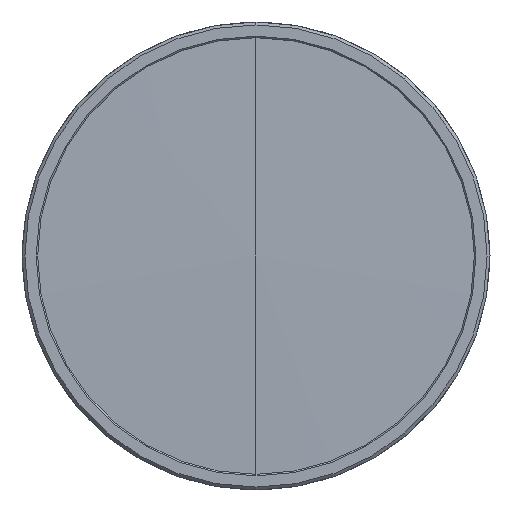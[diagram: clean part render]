
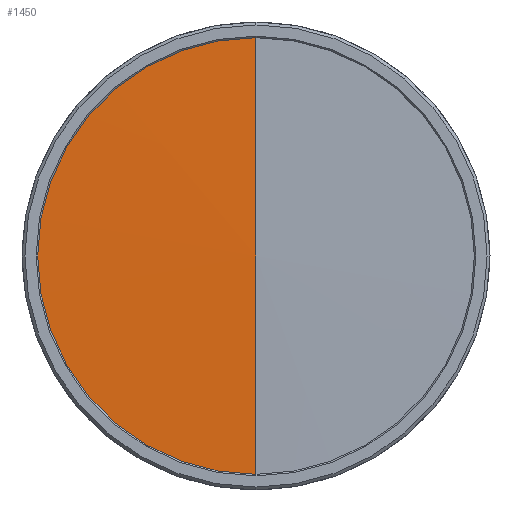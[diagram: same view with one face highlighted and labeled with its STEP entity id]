
A CAD part, left-side view. The second image highlights one B-rep face of the part: STEP entity #1450.
In plain terms, the highlighted conical face has half-angle 89.254 degrees and reference radius 76.792 mm.
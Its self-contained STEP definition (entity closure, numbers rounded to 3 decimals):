
#26 = AXIS2_PLACEMENT_3D ( 'NONE', #2676, #5111, #6120 ) ;
#526 = VECTOR ( 'NONE', #2734, 1000. ) ;
#933 = VERTEX_POINT ( 'NONE', #5732 ) ;
#965 = VERTEX_POINT ( 'NONE', #4390 ) ;
#1396 = EDGE_CURVE ( 'NONE', #933, #2827, #1860, .T. ) ;
#1450 = ADVANCED_FACE ( 'NONE', ( #3609 ), #4924, .T. ) ;
#1701 = LINE ( 'NONE', #5276, #5458 ) ;
#1860 = LINE ( 'NONE', #3166, #526 ) ;
#1892 = CARTESIAN_POINT ( 'NONE',  ( 0.972, 0., -74.65 ) ) ;
#1909 = ORIENTED_EDGE ( 'NONE', *, *, #1396, .F. ) ;
#2354 = DIRECTION ( 'NONE',  ( 0.013, 0., 1. ) ) ;
#2629 = EDGE_CURVE ( 'NONE', #2827, #965, #3611, .T. ) ;
#2676 = CARTESIAN_POINT ( 'NONE',  ( 1., 0., 0. ) ) ;
#2690 = ORIENTED_EDGE ( 'NONE', *, *, #2629, .F. ) ;
#2710 = DIRECTION ( 'NONE',  ( 1., 0., 0. ) ) ;
#2734 = DIRECTION ( 'NONE',  ( 0.013, 0., -1. ) ) ;
#2744 = EDGE_CURVE ( 'NONE', #933, #965, #1701, .T. ) ;
#2827 = VERTEX_POINT ( 'NONE', #1892 ) ;
#3166 = CARTESIAN_POINT ( 'NONE',  ( 1., 0., -76.792 ) ) ;
#3609 = FACE_OUTER_BOUND ( 'NONE', #4351, .T. ) ;
#3611 = CIRCLE ( 'NONE', #6104, 74.65 ) ;
#4351 = EDGE_LOOP ( 'NONE', ( #1909, #5703, #2690 ) ) ;
#4390 = CARTESIAN_POINT ( 'NONE',  ( 0.972, 0., 74.65 ) ) ;
#4710 = DIRECTION ( 'NONE',  ( 0., 0., -1. ) ) ;
#4924 = CONICAL_SURFACE ( 'NONE', #26, 76.792, 1.558 ) ;
#5111 = DIRECTION ( 'NONE',  ( 1., 0., 0. ) ) ;
#5276 = CARTESIAN_POINT ( 'NONE',  ( 1., 0., 76.792 ) ) ;
#5458 = VECTOR ( 'NONE', #2354, 1000. ) ;
#5703 = ORIENTED_EDGE ( 'NONE', *, *, #2744, .T. ) ;
#5719 = CARTESIAN_POINT ( 'NONE',  ( 0.972, 0., 0. ) ) ;
#5732 = CARTESIAN_POINT ( 'NONE',  ( 0., 0., 0. ) ) ;
#6104 = AXIS2_PLACEMENT_3D ( 'NONE', #5719, #2710, #4710 ) ;
#6120 = DIRECTION ( 'NONE',  ( 0., 0., -1. ) ) ;
